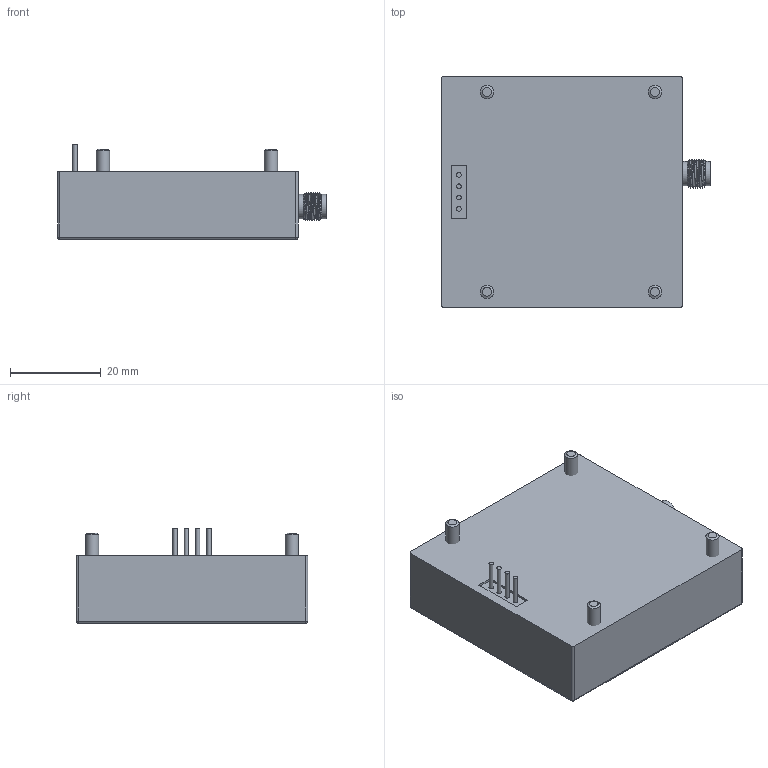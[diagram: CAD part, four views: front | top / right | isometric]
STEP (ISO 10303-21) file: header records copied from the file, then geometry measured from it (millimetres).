
FILE_DESCRIPTION(/* description */ (''),/* implementation_level */ '2;1');
FILE_NAME(/* name */ 'ADSB_IN_Efis_VS_Light_Step.step',/* time_stamp */ '2026-02-13T15:20:08+01:00',/* author */ (''),/* organization */ (''),/* preprocessor_version */ 'ST-DEVELOPER v20.1',/* originating_system */ 'Autodesk Translation Framework v14.24.0.0',/* authorisation */ '');
FILE_SCHEMA (('AUTOMOTIVE_DESIGN { 1 0 10303 214 3 1 1 }'));
Length unit declared in the file: millimetre
Products named in the file (1): GNS_Efis_VS_Light
Bounding box: 59.23 x 51 x 21.1 mm (x, y, z)
Volume: 40947.6 mm3; surface area: 10163.7 mm2
Topology: 5 solids, 6 shells, 312 faces, 816 edges, 533 vertices
Faces by surface type: cylinder 181, plane 105, cone 16, sphere 4, torus 4, bspline 2
Full cylindrical faces by diameter (mm): 1 x4, 1.3 x1, 2.927 x4, 3 x4, 4.072 x1, 4.572 x1, 5.35 x2, 5.5 x4, 6.35 x5, 7.93 x1
Entity records: 10976 total; most frequent: CARTESIAN_POINT 2942, DIRECTION 1784, ORIENTED_EDGE 1630, EDGE_CURVE 816, AXIS2_PLACEMENT_3D 685, VERTEX_POINT 533, LINE 414, VECTOR 414
